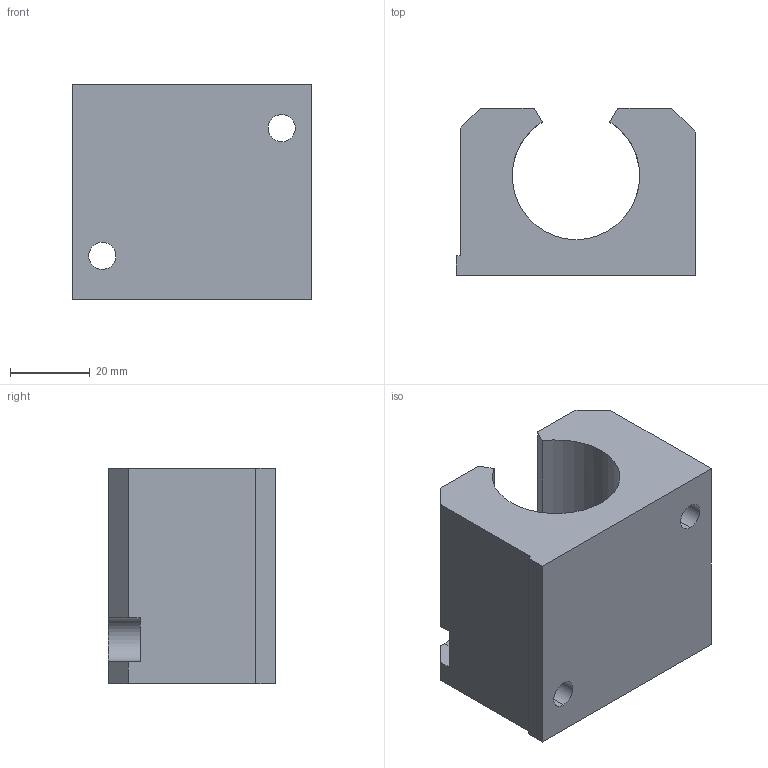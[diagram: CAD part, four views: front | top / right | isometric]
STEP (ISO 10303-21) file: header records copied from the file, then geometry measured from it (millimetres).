
FILE_DESCRIPTION (( 'STEP AP214' ), '1' );
FILE_NAME ('KGO37-20.step', '2020-03-04T13:21:28', ( '' ), ( '' ), 'SwSTEP 2.0', 'SolidWorks 2019', '' );
FILE_SCHEMA (( 'AUTOMOTIVE_DESIGN' ));
Length unit declared in the file: millimetre
Products named in the file (1): KGO37-20
Bounding box: 60 x 42 x 54 mm (x, y, z)
Volume: 81801.2 mm3; surface area: 19867.9 mm2
Topology: 1 solids, 1 shells, 41 faces, 111 edges, 72 vertices
Faces by surface type: plane 22, cylinder 17, cone 2
Entity records: 1533 total; most frequent: CARTESIAN_POINT 341, ORIENTED_EDGE 222, DIRECTION 221, EDGE_CURVE 111, LINE 77, VECTOR 77, AXIS2_PLACEMENT_3D 72, VERTEX_POINT 72
